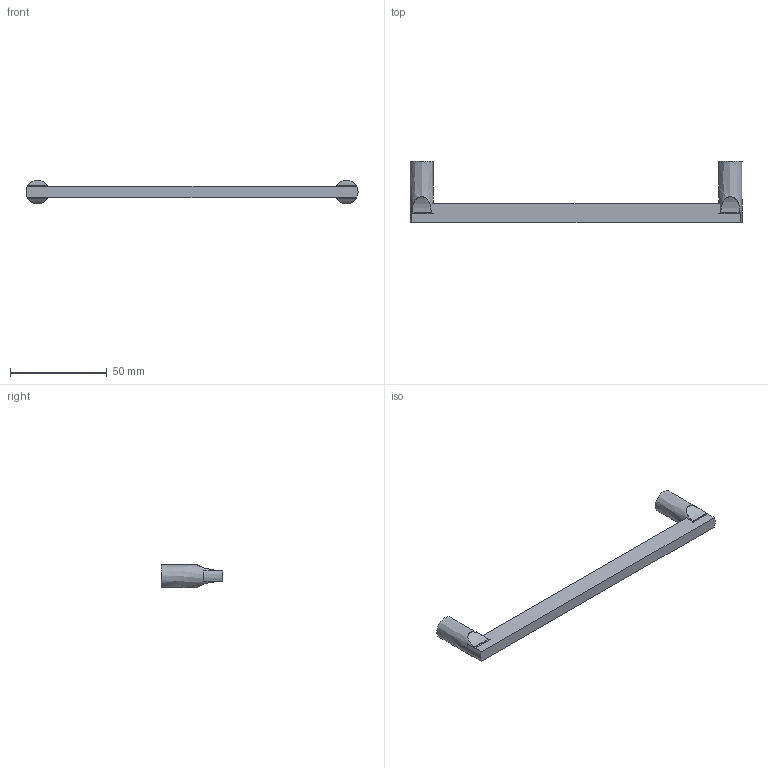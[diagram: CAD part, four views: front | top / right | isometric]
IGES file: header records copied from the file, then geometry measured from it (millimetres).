
Start section: Data from Parasolid IGES Translator 15.0.47, Copyright(c) 2006 Siemens P LM Software. All Rights Reserved.
Global section: file name: 9208032.igs; native system:  By UGS Corp.; preprocessor: XPlus GENERIC/IGES 3.0; author: Noname; organization: Noname; date: 20151127.172154; units: millimetre
Bounding box: 172 x 32 x 12 mm (x, y, z)
Surface area: 7617.2 mm2 (no closed solid volume)
Topology: 0 solids, 0 shells, 30 faces, 228 edges, 224 vertices
Faces by surface type: revolution 19, extrusion 11
